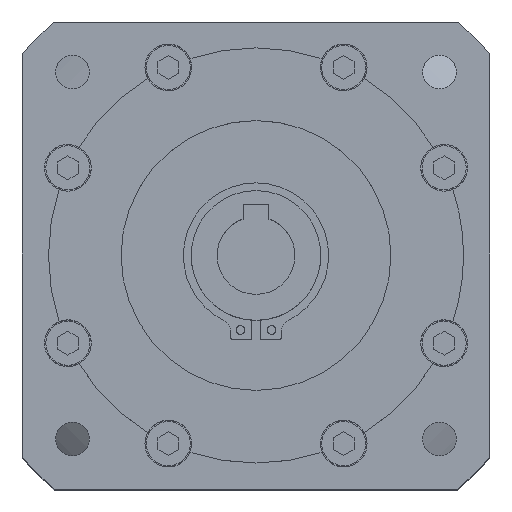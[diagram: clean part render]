
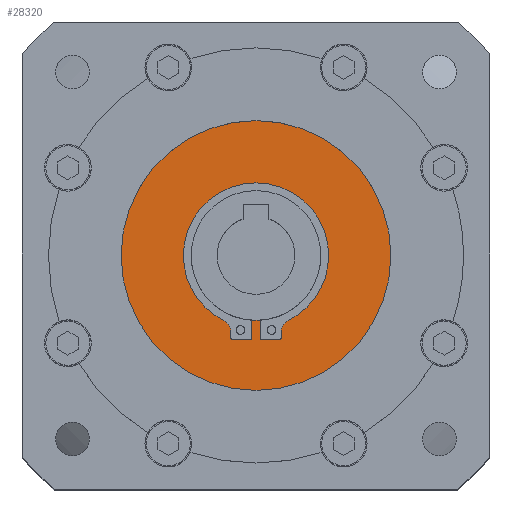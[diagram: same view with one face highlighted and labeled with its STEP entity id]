
A CAD part, top view. The second image highlights one B-rep face of the part: STEP entity #28320.
In plain terms, the highlighted planar face has unit normal (0, 0, 1).
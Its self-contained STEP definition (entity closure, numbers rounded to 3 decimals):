
#22 = VERTEX_POINT ( 'NONE', #2255 ) ;
#817 = EDGE_CURVE ( 'NONE', #44289, #11102, #9020, .T. ) ;
#1122 = DIRECTION ( 'NONE',  ( -1., 0., 0. ) ) ;
#1651 = DIRECTION ( 'NONE',  ( -1., 0., 0. ) ) ;
#1697 = DIRECTION ( 'NONE',  ( 0., 0., 1. ) ) ;
#1707 = CARTESIAN_POINT ( 'NONE',  ( 0., 0., -2.5 ) ) ;
#1732 = EDGE_CURVE ( 'NONE', #43757, #25788, #4109, .T. ) ;
#1918 = DIRECTION ( 'NONE',  ( 0., 1., 0. ) ) ;
#2255 = CARTESIAN_POINT ( 'NONE',  ( 26., 0., -2.5 ) ) ;
#2895 = DIRECTION ( 'NONE',  ( -1., 0., 0. ) ) ;
#3286 = CARTESIAN_POINT ( 'NONE',  ( -4.85, 0., -2.5 ) ) ;
#3396 = DIRECTION ( 'NONE',  ( 0., -1., 0. ) ) ;
#3458 = EDGE_CURVE ( 'NONE', #11102, #15705, #24127, .T. ) ;
#3809 = CIRCLE ( 'NONE', #21774, 2.5 ) ;
#4104 = CIRCLE ( 'NONE', #18435, 0.5 ) ;
#4109 = CIRCLE ( 'NONE', #40602, 14. ) ;
#4177 = CARTESIAN_POINT ( 'NONE',  ( 4.35, -16.271, -2.5 ) ) ;
#4458 = EDGE_CURVE ( 'NONE', #25788, #42277, #38356, .T. ) ;
#4556 = VECTOR ( 'NONE', #30102, 1000. ) ;
#5289 = VECTOR ( 'NONE', #3396, 1000. ) ;
#5447 = CARTESIAN_POINT ( 'NONE',  ( 4.85, 0., -2.5 ) ) ;
#6211 = LINE ( 'NONE', #40159, #31824 ) ;
#6704 = CARTESIAN_POINT ( 'NONE',  ( 0., 0., -2.5 ) ) ;
#7133 = AXIS2_PLACEMENT_3D ( 'NONE', #1707, #1697, #1651 ) ;
#7158 = DIRECTION ( 'NONE',  ( 0., 1., 0. ) ) ;
#7372 = DIRECTION ( 'NONE',  ( -1., 0., 0. ) ) ;
#8335 = CARTESIAN_POINT ( 'NONE',  ( -26., 0., -2.5 ) ) ;
#8373 = CARTESIAN_POINT ( 'NONE',  ( 4.35, -15.771, -2.5 ) ) ;
#8911 = ORIENTED_EDGE ( 'NONE', *, *, #33865, .F. ) ;
#8980 = AXIS2_PLACEMENT_3D ( 'NONE', #9320, #33665, #12792 ) ;
#9020 = CIRCLE ( 'NONE', #43226, 0.5 ) ;
#9063 = DIRECTION ( 'NONE',  ( 0., 0., -1. ) ) ;
#9067 = LINE ( 'NONE', #24439, #45066 ) ;
#9320 = CARTESIAN_POINT ( 'NONE',  ( 0., 0., -2.5 ) ) ;
#9429 = VECTOR ( 'NONE', #19015, 1000. ) ;
#9562 = CARTESIAN_POINT ( 'NONE',  ( 14., 0., -2.5 ) ) ;
#10219 = DIRECTION ( 'NONE',  ( 1., 0., 0. ) ) ;
#10833 = EDGE_CURVE ( 'NONE', #21425, #44289, #23800, .T. ) ;
#11102 = VERTEX_POINT ( 'NONE', #36829 ) ;
#11847 = DIRECTION ( 'NONE',  ( -1., 0., 0. ) ) ;
#11907 = FACE_BOUND ( 'NONE', #17256, .T. ) ;
#12218 = AXIS2_PLACEMENT_3D ( 'NONE', #42921, #21984, #1122 ) ;
#12685 = CARTESIAN_POINT ( 'NONE',  ( 0., 0., -2.5 ) ) ;
#12792 = DIRECTION ( 'NONE',  ( -1., 0., 0. ) ) ;
#13392 = CARTESIAN_POINT ( 'NONE',  ( -4.85, -15.771, -2.5 ) ) ;
#13973 = AXIS2_PLACEMENT_3D ( 'NONE', #6704, #31030, #10219 ) ;
#14747 = ORIENTED_EDGE ( 'NONE', *, *, #34418, .F. ) ;
#15431 = DIRECTION ( 'NONE',  ( 0., 0., -1. ) ) ;
#15560 = CARTESIAN_POINT ( 'NONE',  ( 0.85, 0., -2.5 ) ) ;
#15618 = CARTESIAN_POINT ( 'NONE',  ( -0.85, -12.471, -2.5 ) ) ;
#15705 = VERTEX_POINT ( 'NONE', #41347 ) ;
#16035 = CARTESIAN_POINT ( 'NONE',  ( 4.85, -15.771, -2.5 ) ) ;
#16163 = DIRECTION ( 'NONE',  ( 1., 0., 0. ) ) ;
#16558 = AXIS2_PLACEMENT_3D ( 'NONE', #12685, #37068, #16163 ) ;
#16760 = CARTESIAN_POINT ( 'NONE',  ( 0., 0., -2.5 ) ) ;
#17256 = EDGE_LOOP ( 'NONE', ( #35125, #40676, #25813, #35536, #26767, #42278, #14747, #42810, #8911, #20543, #42114, #32462, #44739, #42718 ) ) ;
#17789 = EDGE_LOOP ( 'NONE', ( #42319, #26987 ) ) ;
#18435 = AXIS2_PLACEMENT_3D ( 'NONE', #8373, #32704, #11847 ) ;
#18610 = LINE ( 'NONE', #15560, #9429 ) ;
#19015 = DIRECTION ( 'NONE',  ( 0., -1., 0. ) ) ;
#19062 = CIRCLE ( 'NONE', #16558, 26. ) ;
#19702 = CIRCLE ( 'NONE', #8980, 14. ) ;
#20543 = ORIENTED_EDGE ( 'NONE', *, *, #35341, .F. ) ;
#21425 = VERTEX_POINT ( 'NONE', #24166 ) ;
#21726 = CIRCLE ( 'NONE', #13973, 26. ) ;
#21774 = AXIS2_PLACEMENT_3D ( 'NONE', #29862, #9063, #33406 ) ;
#21984 = DIRECTION ( 'NONE',  ( 0., 0., 1. ) ) ;
#22036 = CARTESIAN_POINT ( 'NONE',  ( -14., 0., -2.5 ) ) ;
#23725 = DIRECTION ( 'NONE',  ( 0., 0., -1. ) ) ;
#23800 = LINE ( 'NONE', #3286, #5289 ) ;
#24127 = LINE ( 'NONE', #29746, #4556 ) ;
#24166 = CARTESIAN_POINT ( 'NONE',  ( -4.85, -14.773, -2.5 ) ) ;
#24439 = CARTESIAN_POINT ( 'NONE',  ( -0.85, 0., -2.5 ) ) ;
#25277 = EDGE_CURVE ( 'NONE', #42277, #41276, #19702, .T. ) ;
#25788 = VERTEX_POINT ( 'NONE', #9562 ) ;
#25813 = ORIENTED_EDGE ( 'NONE', *, *, #39438, .F. ) ;
#25997 = VERTEX_POINT ( 'NONE', #4177 ) ;
#26336 = EDGE_CURVE ( 'NONE', #37826, #22, #19062, .T. ) ;
#26427 = DIRECTION ( 'NONE',  ( -1., 0., 0. ) ) ;
#26577 = CARTESIAN_POINT ( 'NONE',  ( 0., 0., -2.5 ) ) ;
#26737 = DIRECTION ( 'NONE',  ( 0., 0., 1. ) ) ;
#26767 = ORIENTED_EDGE ( 'NONE', *, *, #4458, .F. ) ;
#26987 = ORIENTED_EDGE ( 'NONE', *, *, #26336, .T. ) ;
#27251 = EDGE_CURVE ( 'NONE', #22, #37826, #21726, .T. ) ;
#27688 = AXIS2_PLACEMENT_3D ( 'NONE', #16760, #23725, #2895 ) ;
#28191 = DIRECTION ( 'NONE',  ( 0., 0., 1. ) ) ;
#28320 = ADVANCED_FACE ( 'NONE', ( #38642, #11907 ), #44537, .F. ) ;
#29746 = CARTESIAN_POINT ( 'NONE',  ( 0., -16.271, -2.5 ) ) ;
#29762 = DIRECTION ( 'NONE',  ( 1., 0., 0. ) ) ;
#29862 = CARTESIAN_POINT ( 'NONE',  ( -7.35, -14.773, -2.5 ) ) ;
#30102 = DIRECTION ( 'NONE',  ( 1., 0., 0. ) ) ;
#31030 = DIRECTION ( 'NONE',  ( 0., 0., 1. ) ) ;
#31761 = VERTEX_POINT ( 'NONE', #43724 ) ;
#31799 = EDGE_CURVE ( 'NONE', #37885, #33596, #33598, .T. ) ;
#31824 = VECTOR ( 'NONE', #29762, 1000. ) ;
#32267 = VERTEX_POINT ( 'NONE', #15618 ) ;
#32462 = ORIENTED_EDGE ( 'NONE', *, *, #40552, .F. ) ;
#32704 = DIRECTION ( 'NONE',  ( 0., 0., 1. ) ) ;
#33313 = EDGE_CURVE ( 'NONE', #15705, #32267, #9067, .T. ) ;
#33406 = DIRECTION ( 'NONE',  ( -1., 0., 0. ) ) ;
#33596 = VERTEX_POINT ( 'NONE', #44666 ) ;
#33598 = LINE ( 'NONE', #5447, #41804 ) ;
#33665 = DIRECTION ( 'NONE',  ( 0., 0., 1. ) ) ;
#33865 = EDGE_CURVE ( 'NONE', #25997, #37885, #4104, .T. ) ;
#34418 = EDGE_CURVE ( 'NONE', #33596, #43757, #35162, .T. ) ;
#35125 = ORIENTED_EDGE ( 'NONE', *, *, #817, .F. ) ;
#35162 = CIRCLE ( 'NONE', #38671, 2.5 ) ;
#35341 = EDGE_CURVE ( 'NONE', #31761, #25997, #6211, .T. ) ;
#35536 = ORIENTED_EDGE ( 'NONE', *, *, #25277, .F. ) ;
#36316 = CARTESIAN_POINT ( 'NONE',  ( 7.35, -14.773, -2.5 ) ) ;
#36528 = EDGE_CURVE ( 'NONE', #42482, #31761, #18610, .T. ) ;
#36829 = CARTESIAN_POINT ( 'NONE',  ( -4.35, -16.271, -2.5 ) ) ;
#37068 = DIRECTION ( 'NONE',  ( 0., 0., 1. ) ) ;
#37826 = VERTEX_POINT ( 'NONE', #8335 ) ;
#37885 = VERTEX_POINT ( 'NONE', #16035 ) ;
#38356 = CIRCLE ( 'NONE', #7133, 14. ) ;
#38642 = FACE_OUTER_BOUND ( 'NONE', #17789, .T. ) ;
#38671 = AXIS2_PLACEMENT_3D ( 'NONE', #36316, #15431, #39817 ) ;
#39050 = CARTESIAN_POINT ( 'NONE',  ( -4.35, -15.771, -2.5 ) ) ;
#39438 = EDGE_CURVE ( 'NONE', #41276, #21425, #3809, .T. ) ;
#39817 = DIRECTION ( 'NONE',  ( -1., 0., 0. ) ) ;
#40159 = CARTESIAN_POINT ( 'NONE',  ( 0., -16.271, -2.5 ) ) ;
#40552 = EDGE_CURVE ( 'NONE', #32267, #42482, #43518, .T. ) ;
#40602 = AXIS2_PLACEMENT_3D ( 'NONE', #26577, #26737, #26427 ) ;
#40676 = ORIENTED_EDGE ( 'NONE', *, *, #10833, .F. ) ;
#41276 = VERTEX_POINT ( 'NONE', #45031 ) ;
#41347 = CARTESIAN_POINT ( 'NONE',  ( -0.85, -16.271, -2.5 ) ) ;
#41804 = VECTOR ( 'NONE', #1918, 1000. ) ;
#41885 = CARTESIAN_POINT ( 'NONE',  ( 0.85, -12.471, -2.5 ) ) ;
#42114 = ORIENTED_EDGE ( 'NONE', *, *, #36528, .F. ) ;
#42277 = VERTEX_POINT ( 'NONE', #22036 ) ;
#42278 = ORIENTED_EDGE ( 'NONE', *, *, #1732, .F. ) ;
#42319 = ORIENTED_EDGE ( 'NONE', *, *, #27251, .T. ) ;
#42482 = VERTEX_POINT ( 'NONE', #41885 ) ;
#42718 = ORIENTED_EDGE ( 'NONE', *, *, #3458, .F. ) ;
#42810 = ORIENTED_EDGE ( 'NONE', *, *, #31799, .F. ) ;
#42921 = CARTESIAN_POINT ( 'NONE',  ( 0., 0., -2.5 ) ) ;
#43226 = AXIS2_PLACEMENT_3D ( 'NONE', #39050, #28191, #7372 ) ;
#43418 = CARTESIAN_POINT ( 'NONE',  ( 6.236, -12.534, -2.5 ) ) ;
#43518 = CIRCLE ( 'NONE', #12218, 12.5 ) ;
#43724 = CARTESIAN_POINT ( 'NONE',  ( 0.85, -16.271, -2.5 ) ) ;
#43757 = VERTEX_POINT ( 'NONE', #43418 ) ;
#44289 = VERTEX_POINT ( 'NONE', #13392 ) ;
#44537 = PLANE ( 'NONE',  #27688 ) ;
#44666 = CARTESIAN_POINT ( 'NONE',  ( 4.85, -14.773, -2.5 ) ) ;
#44739 = ORIENTED_EDGE ( 'NONE', *, *, #33313, .F. ) ;
#45031 = CARTESIAN_POINT ( 'NONE',  ( -6.236, -12.534, -2.5 ) ) ;
#45066 = VECTOR ( 'NONE', #7158, 1000. ) ;
